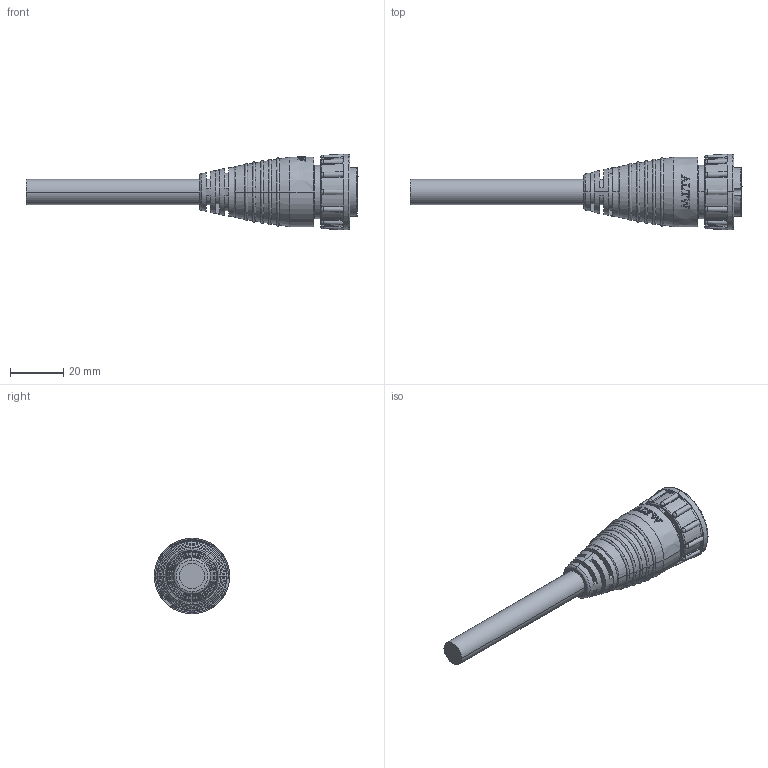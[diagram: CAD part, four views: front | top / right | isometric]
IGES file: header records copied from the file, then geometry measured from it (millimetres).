
Start section:  PTC IGES file: 1dc-06affm-ll7axx.igs
Global section: file name: 1dc-06affm-ll7axx.igs; native system: Creo Parametric by Parametric Technology Corporation; preprocessor: 2017170; author: L210039; organization: Unknown; date: 20211006.170722; units: millimetre
Bounding box: 125.25 x 28.5 x 28.5 mm (x, y, z)
Volume: 27305.3 mm3; surface area: 10309.8 mm2
Topology: 2 solids, 2 shells, 365 faces, 976 edges, 615 vertices
Faces by surface type: bspline 160, revolution 149, extrusion 56
